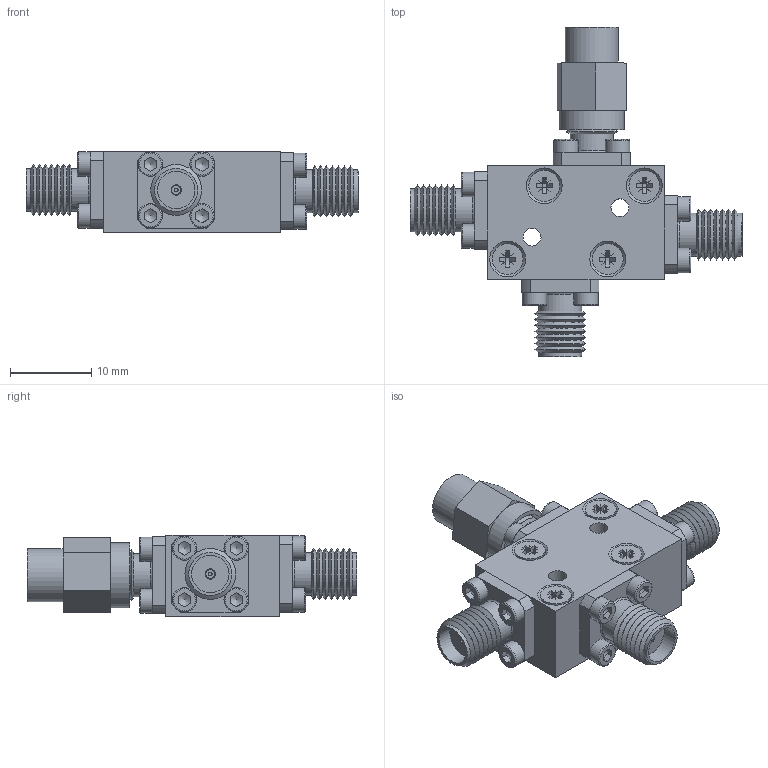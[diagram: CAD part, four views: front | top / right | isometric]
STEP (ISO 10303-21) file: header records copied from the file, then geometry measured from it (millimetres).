
FILE_DESCRIPTION(/* description */ ('Unknown'),/* implementation_level */ '2;1');
FILE_NAME(/* name */ 'DETI_MICROWAVE_DIRECTIONAL_COUPLER_011057_STEP',/* time_stamp */ '2021-06-08T14:32:11+02:00',/* author */ ('ALG'),/* organization */ ('DETI'),/* preprocessor_version */ 'ST-DEVELOPER v16.7',/* originating_system */ 'Solid Edge',/* authorisation */ 'Unknown');
FILE_SCHEMA (('AUTOMOTIVE_DESIGN {1 0 10303 214 3 1 1}'));
Length unit declared in the file: millimetre
Products named in the file (1): CD-1-27000-31000-10-5-KF-KF-KF2
Bounding box: 40.8 x 40.5 x 10 mm (x, y, z)
Volume: 4748.4 mm3; surface area: 3954 mm2
Topology: 1 solids, 42 shells, 579 faces, 1377 edges, 909 vertices
Faces by surface type: plane 353, cylinder 113, cone 89, torus 24
Full cylindrical faces by diameter (mm): 0.47 x4, 0.8 x1, 1.1 x4, 1.27 x7, 1.6 x16, 1.8 x16, 2 x4, 2.2 x8, 3 x16, 3.8 x4, 4.1 x4, 4.6 x3, 5.3 x7, 6.5 x1, 6.8 x1, 8 x1
Entity records: 18850 total; most frequent: CARTESIAN_POINT 2766, DIRECTION 2422, ORIENTED_EDGE 2094, EDGE_CURVE 1047, FACE_BOUND 900, AXIS2_PLACEMENT_3D 897, EDGE_LOOP 868, VERTEX_POINT 821
